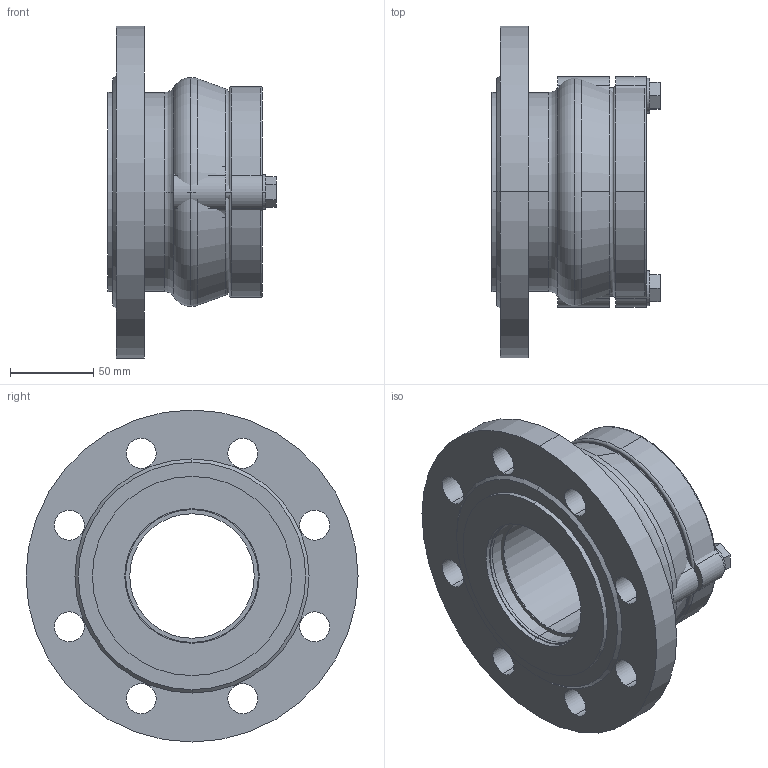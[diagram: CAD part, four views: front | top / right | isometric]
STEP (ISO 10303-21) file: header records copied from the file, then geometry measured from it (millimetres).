
FILE_DESCRIPTION(('STEP AP214'),'1');
FILE_NAME('U:/VDI-Daten/7200-(0400)/7200_PN16_DN80_75.STP','2012-06-15T09:23:48',(' '),(' '),'Spatial InterOp 3D',' ',' ');
FILE_SCHEMA(('automotive_design'));
Length unit declared in the file: millimetre
Products named in the file (16): 3D-Objekt
Bounding box: 101.4 x 200 x 200 mm (x, y, z)
Volume: 1145886.5 mm3; surface area: 229764.6 mm2
Topology: 16 solids, 16 shells, 127 faces, 280 edges, 186 vertices
Faces by surface type: cylinder 64, plane 45, torus 12, cone 6
Entity records: 5034 total; most frequent: DIRECTION 740, CARTESIAN_POINT 609, ORIENTED_EDGE 560, AXIS2_PLACEMENT_3D 317, EDGE_CURVE 280, VERTEX_POINT 186, CIRCLE 174, EDGE_LOOP 156
